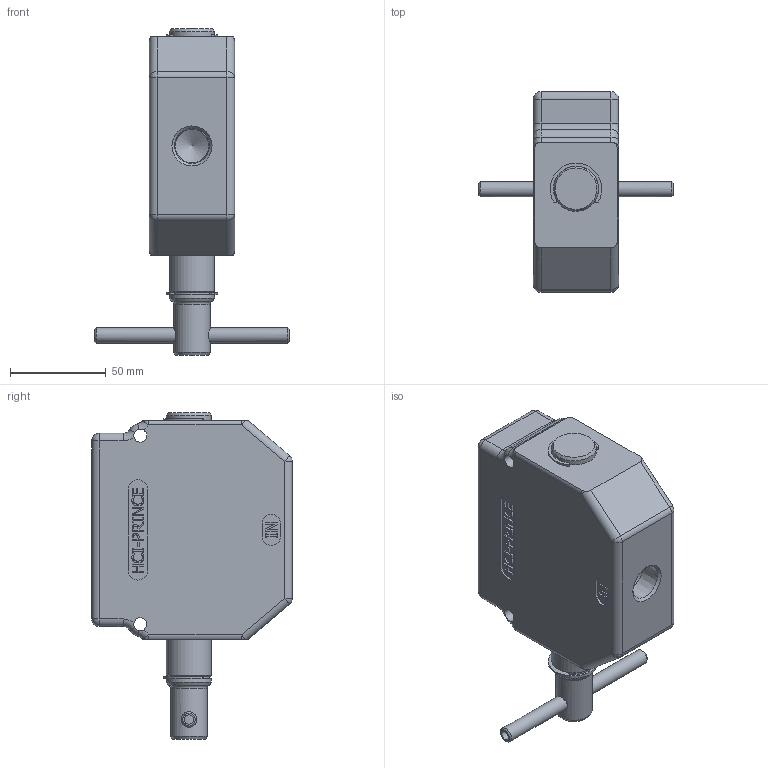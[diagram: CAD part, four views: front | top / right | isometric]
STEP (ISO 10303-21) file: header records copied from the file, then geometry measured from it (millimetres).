
FILE_DESCRIPTION((''),'2;1');
FILE_NAME('C:\Vault\Workspace\z_ShellModels\Misc_RD_RV\RD-950_Shell.stp','2012-03-19T11:43:07',('PetersW'),(''),'Autodesk Inventor 2012','Autodesk Inventor 2012','');
FILE_SCHEMA(('AUTOMOTIVE_DESIGN { 1 0 10303 214 1 1 1 1 }'));
Length unit declared in the file: inch
Products named in the file (1): Part3
Bounding box: 101.6 x 104.78 x 170.61 mm (x, y, z)
Volume: 489867.9 mm3; surface area: 54476 mm2
Topology: 1 solids, 1 shells, 554 faces, 1467 edges, 958 vertices
Faces by surface type: plane 331, bspline 127, cylinder 56, sphere 16, cone 15, torus 9
Full cylindrical faces by diameter (mm): 4.877 x2, 6.731 x2, 8.026 x2, 17.475 x3, 19.05 x1, 21.336 x1, 23.52 x3
Entity records: 18166 total; most frequent: CARTESIAN_POINT 4776, ORIENTED_EDGE 2844, DIRECTION 2174, EDGE_CURVE 1422, VECTOR 1002, LINE 1002, VERTEX_POINT 944, EDGE_LOOP 632
